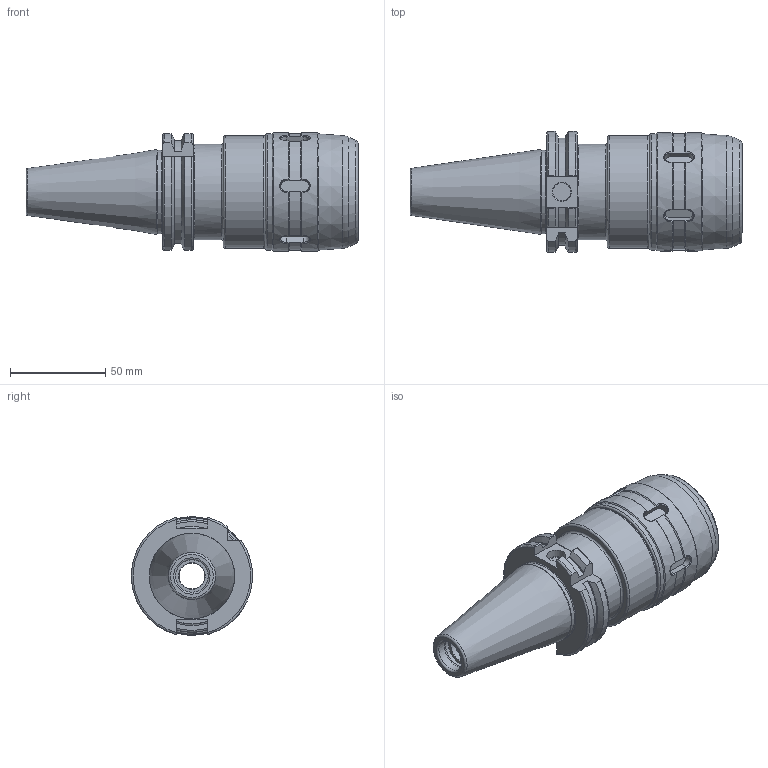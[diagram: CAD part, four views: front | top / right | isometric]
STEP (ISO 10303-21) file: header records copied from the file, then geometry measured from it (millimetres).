
FILE_DESCRIPTION(/* description */ (''),/* implementation_level */ '2;1');
FILE_NAME(/* name */ '\\SSKT-NAS\Lab-Data\연구소\DRAWING_3D\1. 인벤터\4. LAY-OUT\STANDARD\MILLING CHUCK-C\SK40-C25-105\SK40-C25-105.stp',/* time_stamp */ '2021-06-15T14:00:06+09:00',/* author */ ('KKK'),/* organization */ (''),/* preprocessor_version */ 'ST-DEVELOPER v18',/* originating_system */ 'Autodesk Inventor 2020',/* authorisation */ '');
FILE_SCHEMA (('AUTOMOTIVE_DESIGN { 1 0 10303 214 3 1 1 }'));
Length unit declared in the file: millimetre
Products named in the file (3): LO-SK40-C25-105; LO-SK40-C25-105_1; C32-CAP
Assembly tree (2 placements, depth 2):
  LO-SK40-C25-105
    LO-SK40-C25-105_1
    C32-CAP
Bounding box: 173.9 x 63.42 x 61.98 mm (x, y, z)
Volume: 271867 mm3; surface area: 60371 mm2
Topology: 2 solids, 2 shells, 204 faces, 576 edges, 389 vertices
Faces by surface type: plane 86, cylinder 49, cone 34, torus 21, bspline 14
Full cylindrical faces by diameter (mm): 10 x1, 13.5 x1, 13.835 x1, 17 x1, 17.6 x1, 25 x1, 26 x1, 31.6 x1, 35.2 x1, 37.9 x1, 39.2 x1, 43.8 x1, 44.5 x3, 46.45 x2, 50 x1, 59 x1, 61 x1, 62 x2
Entity records: 7809 total; most frequent: CARTESIAN_POINT 2492, ORIENTED_EDGE 1148, DIRECTION 1078, EDGE_CURVE 574, AXIS2_PLACEMENT_3D 427, VERTEX_POINT 389, CIRCLE 232, LINE 224
